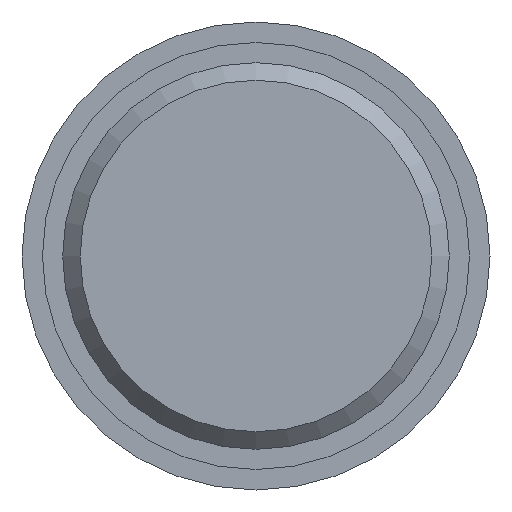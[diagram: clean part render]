
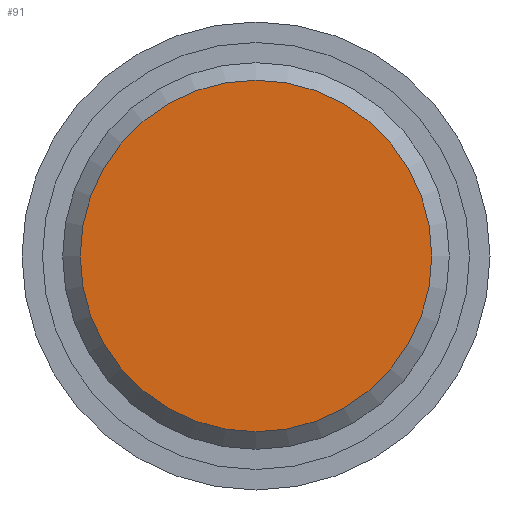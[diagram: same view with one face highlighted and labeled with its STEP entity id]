
A CAD part, front view. The second image highlights one B-rep face of the part: STEP entity #91.
In plain terms, the highlighted planar face has unit normal (0, -1, 0).
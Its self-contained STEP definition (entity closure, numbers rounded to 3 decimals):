
#91 = ADVANCED_FACE( '', ( #138 ), #139, .F. );
#138 = FACE_OUTER_BOUND( '', #193, .T. );
#139 = PLANE( '', #194 );
#193 = EDGE_LOOP( '', ( #308 ) );
#194 = AXIS2_PLACEMENT_3D( '', #309, #310, #311 );
#308 = ORIENTED_EDGE( '', *, *, #359, .T. );
#309 = CARTESIAN_POINT( '', ( 12.021, 0., 0. ) );
#310 = DIRECTION( '', ( 0., 1., 0. ) );
#311 = DIRECTION( '', ( 0., 0., 1. ) );
#359 = EDGE_CURVE( '', #411, #411, #412, .T. );
#411 = VERTEX_POINT( '', #485 );
#412 = CIRCLE( '', #486, 12.021 );
#485 = CARTESIAN_POINT( '', ( 0., 0., -12.021 ) );
#486 = AXIS2_PLACEMENT_3D( '', #538, #539, #540 );
#538 = CARTESIAN_POINT( '', ( 0., 0., 0. ) );
#539 = DIRECTION( '', ( 0., -1., 0. ) );
#540 = DIRECTION( '', ( 0., 0., -1. ) );
